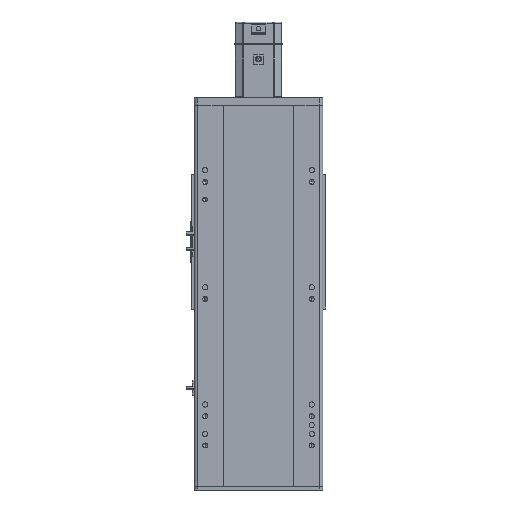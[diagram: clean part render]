
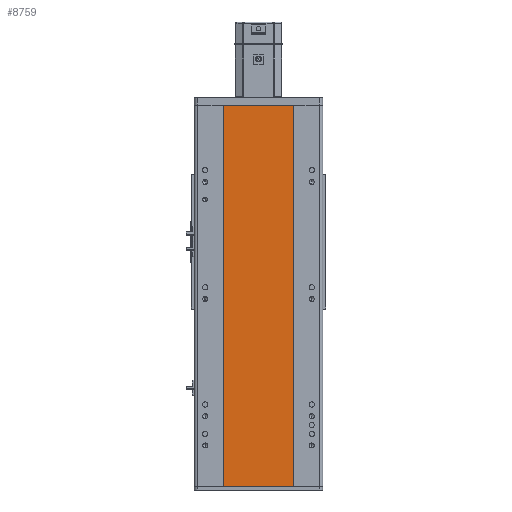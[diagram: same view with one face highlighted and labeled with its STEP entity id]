
A CAD part, front view. The second image highlights one B-rep face of the part: STEP entity #8759.
In plain terms, the highlighted planar face has unit normal (0, -1, 0).
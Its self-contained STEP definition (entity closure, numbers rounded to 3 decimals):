
#2111 = PLANE ( 'NONE',  #14876 ) ;
#2312 = VERTEX_POINT ( 'NONE', #5805 ) ;
#2364 = EDGE_CURVE ( 'NONE', #2312, #32238, #32264, .T. ) ;
#2846 = CARTESIAN_POINT ( 'NONE',  ( -59., 1., -325.5 ) ) ;
#3415 = DIRECTION ( 'NONE',  ( 0., 0., -1. ) ) ;
#5113 = CARTESIAN_POINT ( 'NONE',  ( 59., 1., -325.5 ) ) ;
#5805 = CARTESIAN_POINT ( 'NONE',  ( -59., 1., 325.5 ) ) ;
#5831 = VECTOR ( 'NONE', #29338, 1000. ) ;
#5846 = FACE_OUTER_BOUND ( 'NONE', #28064, .T. ) ;
#7569 = CARTESIAN_POINT ( 'NONE',  ( -59., 1., 325.5 ) ) ;
#7704 = DIRECTION ( 'NONE',  ( 0., 1., 0. ) ) ;
#8759 = ADVANCED_FACE ( 'NONE', ( #5846 ), #2111, .F. ) ;
#10422 = DIRECTION ( 'NONE',  ( -1., 0., 0. ) ) ;
#10500 = ORIENTED_EDGE ( 'NONE', *, *, #31391, .F. ) ;
#14096 = LINE ( 'NONE', #28436, #36403 ) ;
#14876 = AXIS2_PLACEMENT_3D ( 'NONE', #7569, #7704, #10422 ) ;
#15104 = DIRECTION ( 'NONE',  ( 0., 0., -1. ) ) ;
#15653 = ORIENTED_EDGE ( 'NONE', *, *, #20481, .F. ) ;
#17496 = ORIENTED_EDGE ( 'NONE', *, *, #27984, .T. ) ;
#18333 = CARTESIAN_POINT ( 'NONE',  ( -59., 1., -325.5 ) ) ;
#18512 = VERTEX_POINT ( 'NONE', #33752 ) ;
#20481 = EDGE_CURVE ( 'NONE', #2312, #18512, #14096, .T. ) ;
#27984 = EDGE_CURVE ( 'NONE', #32238, #31777, #34323, .T. ) ;
#28064 = EDGE_LOOP ( 'NONE', ( #17496, #10500, #15653, #35620 ) ) ;
#28436 = CARTESIAN_POINT ( 'NONE',  ( -59., 1., 325.5 ) ) ;
#29338 = DIRECTION ( 'NONE',  ( 1., 0., 0. ) ) ;
#30365 = LINE ( 'NONE', #34754, #33904 ) ;
#31391 = EDGE_CURVE ( 'NONE', #18512, #31777, #30365, .T. ) ;
#31777 = VERTEX_POINT ( 'NONE', #5113 ) ;
#32238 = VERTEX_POINT ( 'NONE', #2846 ) ;
#32264 = LINE ( 'NONE', #35034, #34931 ) ;
#33752 = CARTESIAN_POINT ( 'NONE',  ( 59., 1., 325.5 ) ) ;
#33904 = VECTOR ( 'NONE', #3415, 1000. ) ;
#34117 = DIRECTION ( 'NONE',  ( 1., 0., 0. ) ) ;
#34323 = LINE ( 'NONE', #18333, #5831 ) ;
#34754 = CARTESIAN_POINT ( 'NONE',  ( 59., 1., 325.5 ) ) ;
#34931 = VECTOR ( 'NONE', #15104, 1000. ) ;
#35034 = CARTESIAN_POINT ( 'NONE',  ( -59., 1., 325.5 ) ) ;
#35620 = ORIENTED_EDGE ( 'NONE', *, *, #2364, .T. ) ;
#36403 = VECTOR ( 'NONE', #34117, 1000. ) ;
